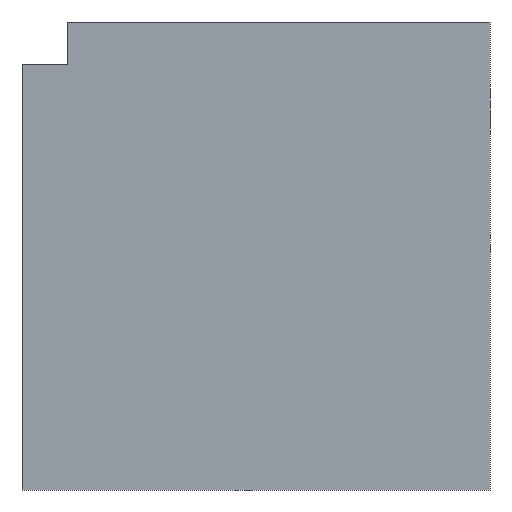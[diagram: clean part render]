
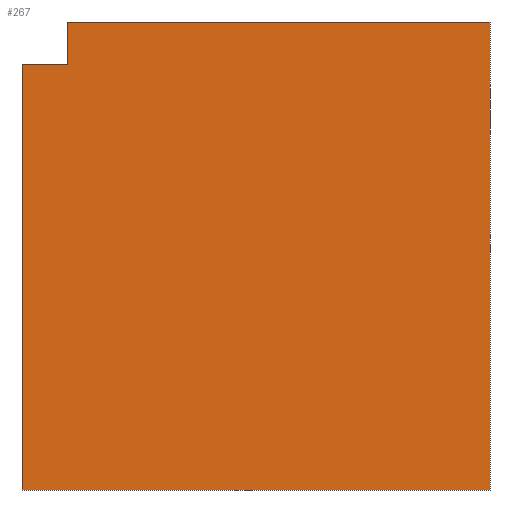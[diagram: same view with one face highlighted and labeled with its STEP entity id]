
A CAD part, front view. The second image highlights one B-rep face of the part: STEP entity #267.
In plain terms, the highlighted planar face has unit normal (0, -1, 0).
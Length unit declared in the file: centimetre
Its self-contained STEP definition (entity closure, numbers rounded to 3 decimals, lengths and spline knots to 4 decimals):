
#4 = AXIS2_PLACEMENT_3D ( 'NONE', #122, #687, #18 ) ;
#17 = VERTEX_POINT ( 'NONE', #462 ) ;
#18 = DIRECTION ( 'NONE',  ( 0., 0., 1. ) ) ;
#34 = EDGE_CURVE ( 'NONE', #603, #110, #419, .T. ) ;
#35 = DIRECTION ( 'NONE',  ( 1., 0., 0. ) ) ;
#38 = CARTESIAN_POINT ( 'NONE',  ( 0., 0., 0. ) ) ;
#52 = CARTESIAN_POINT ( 'NONE',  ( 96.9447, 0., 1000. ) ) ;
#68 = ORIENTED_EDGE ( 'NONE', *, *, #407, .T. ) ;
#71 = VECTOR ( 'NONE', #136, 100. ) ;
#83 = ORIENTED_EDGE ( 'NONE', *, *, #256, .T. ) ;
#89 = PLANE ( 'NONE',  #4 ) ;
#110 = VERTEX_POINT ( 'NONE', #384 ) ;
#114 = ORIENTED_EDGE ( 'NONE', *, *, #126, .F. ) ;
#122 = CARTESIAN_POINT ( 'NONE',  ( 0., 0., 1000. ) ) ;
#125 = CARTESIAN_POINT ( 'NONE',  ( 0., 0., 910.0076 ) ) ;
#126 = EDGE_CURVE ( 'NONE', #110, #516, #564, .T. ) ;
#127 = DIRECTION ( 'NONE',  ( 1., 0., 0. ) ) ;
#135 = EDGE_LOOP ( 'NONE', ( #323, #83, #188, #68, #114, #337 ) ) ;
#136 = DIRECTION ( 'NONE',  ( 0., 0., 1. ) ) ;
#154 = CARTESIAN_POINT ( 'NONE',  ( 1000., 0., 0. ) ) ;
#188 = ORIENTED_EDGE ( 'NONE', *, *, #399, .T. ) ;
#203 = CARTESIAN_POINT ( 'NONE',  ( 0., 0., 1000. ) ) ;
#229 = CARTESIAN_POINT ( 'NONE',  ( 1000., 0., 1000. ) ) ;
#256 = EDGE_CURVE ( 'NONE', #17, #273, #421, .T. ) ;
#259 = EDGE_CURVE ( 'NONE', #17, #603, #424, .T. ) ;
#266 = CARTESIAN_POINT ( 'NONE',  ( 0., 0., 0. ) ) ;
#267 = ADVANCED_FACE ( 'NONE', ( #576 ), #89, .F. ) ;
#273 = VERTEX_POINT ( 'NONE', #125 ) ;
#311 = LINE ( 'NONE', #203, #513 ) ;
#323 = ORIENTED_EDGE ( 'NONE', *, *, #259, .F. ) ;
#337 = ORIENTED_EDGE ( 'NONE', *, *, #34, .F. ) ;
#351 = CARTESIAN_POINT ( 'NONE',  ( 96.9447, 0., 910.0076 ) ) ;
#380 = VECTOR ( 'NONE', #693, 100. ) ;
#384 = CARTESIAN_POINT ( 'NONE',  ( 1000., 0., 1000. ) ) ;
#399 = EDGE_CURVE ( 'NONE', #273, #442, #311, .T. ) ;
#407 = EDGE_CURVE ( 'NONE', #442, #516, #428, .T. ) ;
#419 = LINE ( 'NONE', #679, #425 ) ;
#421 = LINE ( 'NONE', #351, #380 ) ;
#424 = LINE ( 'NONE', #637, #71 ) ;
#425 = VECTOR ( 'NONE', #127, 100. ) ;
#428 = LINE ( 'NONE', #38, #684 ) ;
#442 = VERTEX_POINT ( 'NONE', #266 ) ;
#462 = CARTESIAN_POINT ( 'NONE',  ( 96.9447, 0., 910.0076 ) ) ;
#513 = VECTOR ( 'NONE', #594, 100. ) ;
#516 = VERTEX_POINT ( 'NONE', #154 ) ;
#564 = LINE ( 'NONE', #229, #695 ) ;
#576 = FACE_OUTER_BOUND ( 'NONE', #135, .T. ) ;
#594 = DIRECTION ( 'NONE',  ( 0., 0., -1. ) ) ;
#603 = VERTEX_POINT ( 'NONE', #52 ) ;
#637 = CARTESIAN_POINT ( 'NONE',  ( 96.9447, 0., 910.0076 ) ) ;
#671 = DIRECTION ( 'NONE',  ( 0., 0., -1. ) ) ;
#679 = CARTESIAN_POINT ( 'NONE',  ( 0., 0., 1000. ) ) ;
#684 = VECTOR ( 'NONE', #35, 100. ) ;
#687 = DIRECTION ( 'NONE',  ( 0., 1., 0. ) ) ;
#693 = DIRECTION ( 'NONE',  ( -1., 0., 0. ) ) ;
#695 = VECTOR ( 'NONE', #671, 100. ) ;
